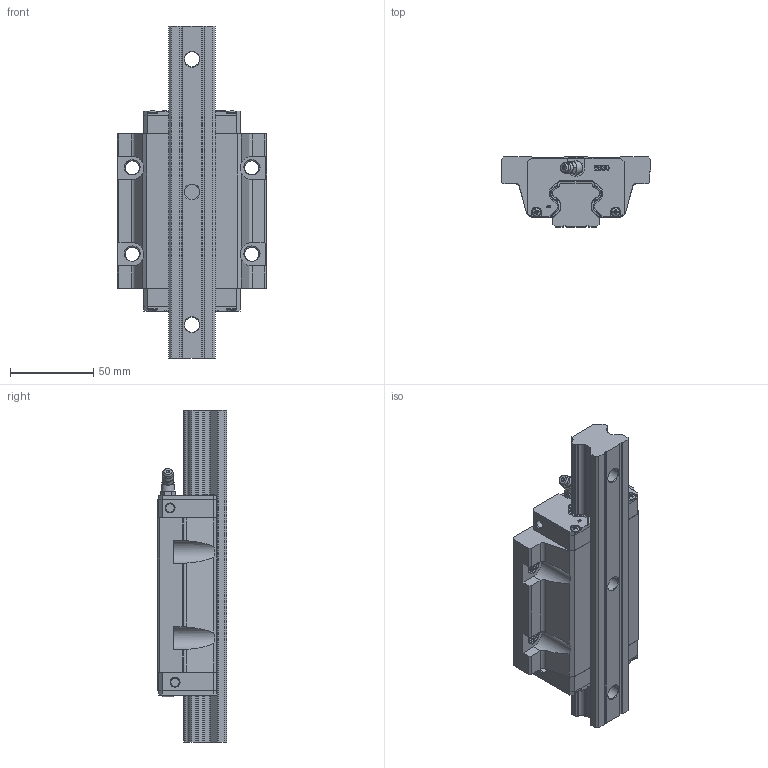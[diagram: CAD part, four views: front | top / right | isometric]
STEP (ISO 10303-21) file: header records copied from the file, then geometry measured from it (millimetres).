
FILE_DESCRIPTION(/* description */ (''),/* implementation_level */ '2;1');
FILE_NAME(/* name */ 'HBW30HC.stp',/* time_stamp */ '2024-09-29T20:59:16+08:00',/* author */ (''),/* organization */ (''),/* preprocessor_version */ 'ST-DEVELOPER v16.7',/* originating_system */ 'SIEMENS PLM Software NX 12.0',/* authorisation */ '');
FILE_SCHEMA (('AUTOMOTIVE_DESIGN { 1 0 10303 214 3 1 1 1 }'));
Products named in the file (3): HBW30HC; HBR30; HBW30HC_stp
Assembly tree (2 placements, depth 2):
  HBW30HC_stp
    HBR30
    HBW30HC
Bounding box: 90 x 42 x 200 mm (x, y, z)
Volume: 355993.8 mm3; surface area: 72592.8 mm2
Topology: 2 solids, 9 shells, 1053 faces, 2897 edges, 1908 vertices
Faces by surface type: plane 608, cylinder 203, extrusion 120, cone 72, bspline 40, torus 7, sphere 3
Full cylindrical faces by diameter (mm): 3 x1, 3.4 x4, 3.7 x1, 5 x4, 6.4 x2, 7.8 x1, 8.002 x2, 8.3 x1
Entity records: 74988 total; most frequent: CARTESIAN_POINT 42619, ORIENTED_EDGE 5654, DIRECTION 4731, EDGE_CURVE 2827, VERTEX_POINT 1887, VECTOR 1761, LINE 1641, AXIS2_PLACEMENT_3D 1485
